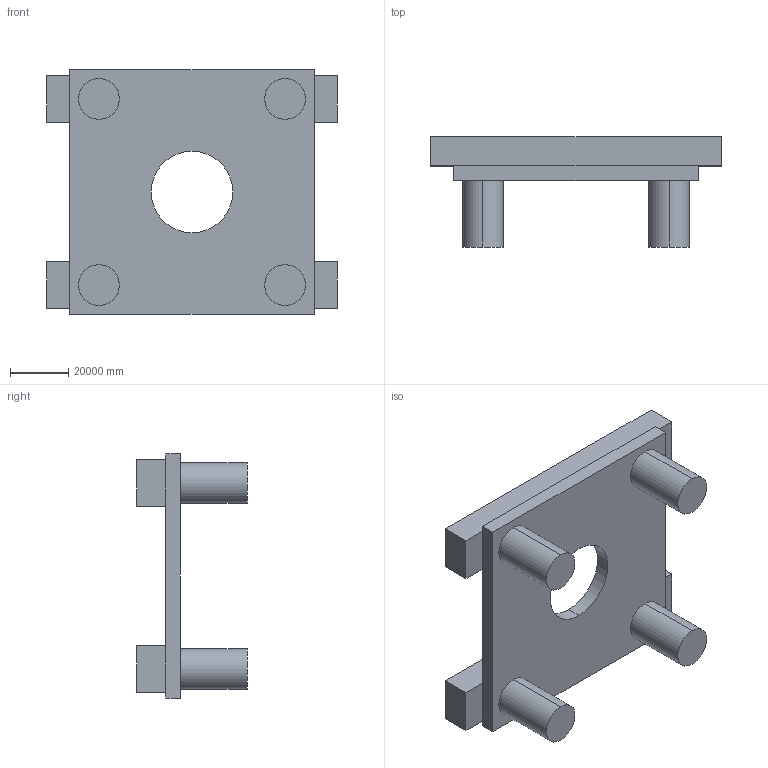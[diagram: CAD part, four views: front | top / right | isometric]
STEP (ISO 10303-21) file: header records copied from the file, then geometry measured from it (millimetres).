
FILE_DESCRIPTION (( 'STEP AP203' ), '1' );
FILE_NAME ('EP_01_SemiSubmersible_Hull.STEP', '2026-10-28T18:31:18', ( '' ), ( '' ), 'SwSTEP 2.0', 'SolidWorks 2026', '' );
FILE_SCHEMA (( 'CONFIG_CONTROL_DESIGN' ));
Length unit declared in the file: inch
Products named in the file (1): EP_01_SemiSubmersible_Hull
Bounding box: 100000 x 38000 x 84000 mm (x, y, z)
Volume: 78363538881864.8 mm3; surface area: 24710689989.1 mm2
Topology: 1 solids, 1 shells, 36 faces, 82 edges, 52 vertices
Faces by surface type: plane 26, cylinder 10
Entity records: 1085 total; most frequent: DIRECTION 176, CARTESIAN_POINT 171, ORIENTED_EDGE 164, EDGE_CURVE 82, VECTOR 62, LINE 62, AXIS2_PLACEMENT_3D 57, VERTEX_POINT 52
